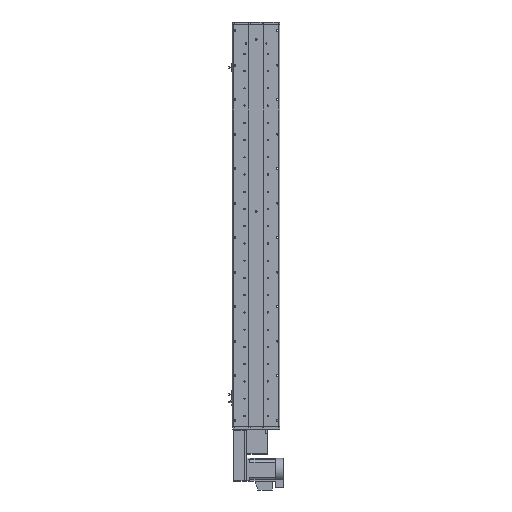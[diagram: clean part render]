
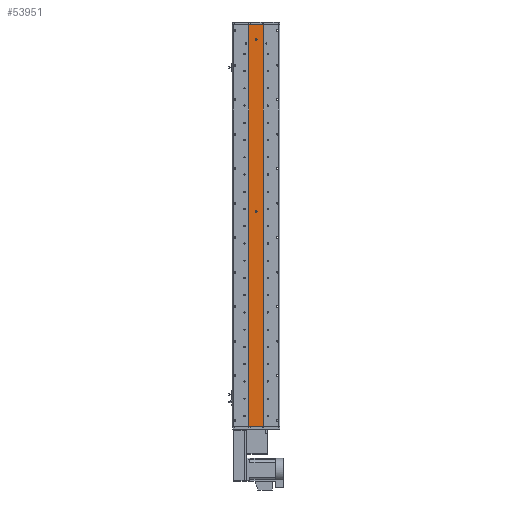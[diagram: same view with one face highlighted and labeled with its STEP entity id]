
A CAD part, front view. The second image highlights one B-rep face of the part: STEP entity #53951.
In plain terms, the highlighted planar face has unit normal (0, -1, 0).
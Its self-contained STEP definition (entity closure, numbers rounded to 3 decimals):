
#347 = CARTESIAN_POINT ( 'NONE',  ( 0., 1., 645.5 ) ) ;
#778 = VECTOR ( 'NONE', #14247, 1000. ) ;
#876 = ORIENTED_EDGE ( 'NONE', *, *, #41213, .F. ) ;
#2293 = VERTEX_POINT ( 'NONE', #34261 ) ;
#3010 = AXIS2_PLACEMENT_3D ( 'NONE', #7449, #43229, #12640 ) ;
#3015 = LINE ( 'NONE', #27597, #28650 ) ;
#3655 = CARTESIAN_POINT ( 'NONE',  ( 25., 1., 698.5 ) ) ;
#4131 = DIRECTION ( 'NONE',  ( 0., -1., 0. ) ) ;
#4256 = EDGE_CURVE ( 'NONE', #7127, #2293, #41646, .T. ) ;
#7127 = VERTEX_POINT ( 'NONE', #55273 ) ;
#7449 = CARTESIAN_POINT ( 'NONE',  ( 25., 1., 698.5 ) ) ;
#7613 = ORIENTED_EDGE ( 'NONE', *, *, #14953, .F. ) ;
#9339 = FACE_BOUND ( 'NONE', #21645, .T. ) ;
#9421 = DIRECTION ( 'NONE',  ( 0., -1., 0. ) ) ;
#11175 = CARTESIAN_POINT ( 'NONE',  ( -25., 1., 698.5 ) ) ;
#12514 = CARTESIAN_POINT ( 'NONE',  ( 0., 1., 51.5 ) ) ;
#12640 = DIRECTION ( 'NONE',  ( 0., 0., 1. ) ) ;
#12666 = EDGE_CURVE ( 'NONE', #66048, #7127, #63514, .T. ) ;
#13514 = CARTESIAN_POINT ( 'NONE',  ( 0., 1., 48.5 ) ) ;
#13815 = ORIENTED_EDGE ( 'NONE', *, *, #65683, .F. ) ;
#14247 = DIRECTION ( 'NONE',  ( 1., 0., 0. ) ) ;
#14953 = EDGE_CURVE ( 'NONE', #33263, #38892, #19153, .T. ) ;
#15795 = CARTESIAN_POINT ( 'NONE',  ( 0., 1., 45.5 ) ) ;
#18549 = ORIENTED_EDGE ( 'NONE', *, *, #54211, .F. ) ;
#18627 = DIRECTION ( 'NONE',  ( 0., 0., -1. ) ) ;
#18993 = AXIS2_PLACEMENT_3D ( 'NONE', #13514, #49254, #18627 ) ;
#19025 = CARTESIAN_POINT ( 'NONE',  ( 0., 1., 651.5 ) ) ;
#19153 = CIRCLE ( 'NONE', #66115, 3. ) ;
#21645 = EDGE_LOOP ( 'NONE', ( #18549, #22177 ) ) ;
#22177 = ORIENTED_EDGE ( 'NONE', *, *, #49870, .F. ) ;
#23000 = FACE_BOUND ( 'NONE', #42843, .T. ) ;
#25424 = DIRECTION ( 'NONE',  ( 0., -1., 0. ) ) ;
#25518 = CARTESIAN_POINT ( 'NONE',  ( -25., 1., 698.5 ) ) ;
#26141 = ORIENTED_EDGE ( 'NONE', *, *, #4256, .T. ) ;
#27597 = CARTESIAN_POINT ( 'NONE',  ( 25., 1., 698.5 ) ) ;
#27607 = VERTEX_POINT ( 'NONE', #3655 ) ;
#28650 = VECTOR ( 'NONE', #63400, 1000. ) ;
#31213 = CIRCLE ( 'NONE', #18993, 3. ) ;
#32580 = LINE ( 'NONE', #64447, #46153 ) ;
#32852 = ORIENTED_EDGE ( 'NONE', *, *, #12666, .T. ) ;
#33263 = VERTEX_POINT ( 'NONE', #12514 ) ;
#34261 = CARTESIAN_POINT ( 'NONE',  ( 25., 1., -698.5 ) ) ;
#34797 = CARTESIAN_POINT ( 'NONE',  ( 0., 1., 48.5 ) ) ;
#36502 = CIRCLE ( 'NONE', #47626, 3. ) ;
#38892 = VERTEX_POINT ( 'NONE', #15795 ) ;
#39705 = VERTEX_POINT ( 'NONE', #19025 ) ;
#39931 = DIRECTION ( 'NONE',  ( 0., 0., -1. ) ) ;
#40025 = CARTESIAN_POINT ( 'NONE',  ( 0., 1., 648.5 ) ) ;
#40967 = DIRECTION ( 'NONE',  ( 0., 0., -1. ) ) ;
#41213 = EDGE_CURVE ( 'NONE', #38892, #33263, #31213, .T. ) ;
#41646 = LINE ( 'NONE', #44851, #778 ) ;
#42843 = EDGE_LOOP ( 'NONE', ( #876, #7613 ) ) ;
#43011 = PLANE ( 'NONE',  #3010 ) ;
#43229 = DIRECTION ( 'NONE',  ( 0., 1., 0. ) ) ;
#44851 = CARTESIAN_POINT ( 'NONE',  ( 25., 1., -698.5 ) ) ;
#45176 = DIRECTION ( 'NONE',  ( 0., 0., -1. ) ) ;
#46153 = VECTOR ( 'NONE', #48782, 1000. ) ;
#47626 = AXIS2_PLACEMENT_3D ( 'NONE', #40025, #9421, #45176 ) ;
#48211 = AXIS2_PLACEMENT_3D ( 'NONE', #56025, #25424, #61223 ) ;
#48782 = DIRECTION ( 'NONE',  ( 1., 0., 0. ) ) ;
#49254 = DIRECTION ( 'NONE',  ( 0., -1., 0. ) ) ;
#49870 = EDGE_CURVE ( 'NONE', #39705, #56486, #54735, .T. ) ;
#50564 = EDGE_LOOP ( 'NONE', ( #26141, #64142, #13815, #32852 ) ) ;
#53951 = ADVANCED_FACE ( 'NONE', ( #23000, #9339, #62168 ), #43011, .F. ) ;
#54211 = EDGE_CURVE ( 'NONE', #56486, #39705, #36502, .T. ) ;
#54735 = CIRCLE ( 'NONE', #48211, 3. ) ;
#55273 = CARTESIAN_POINT ( 'NONE',  ( -25., 1., -698.5 ) ) ;
#56025 = CARTESIAN_POINT ( 'NONE',  ( 0., 1., 648.5 ) ) ;
#56486 = VERTEX_POINT ( 'NONE', #347 ) ;
#61223 = DIRECTION ( 'NONE',  ( 0., 0., -1. ) ) ;
#61874 = VECTOR ( 'NONE', #40967, 1000. ) ;
#62168 = FACE_OUTER_BOUND ( 'NONE', #50564, .T. ) ;
#63400 = DIRECTION ( 'NONE',  ( 0., 0., -1. ) ) ;
#63514 = LINE ( 'NONE', #25518, #61874 ) ;
#64142 = ORIENTED_EDGE ( 'NONE', *, *, #65111, .F. ) ;
#64447 = CARTESIAN_POINT ( 'NONE',  ( 25., 1., 698.5 ) ) ;
#65111 = EDGE_CURVE ( 'NONE', #27607, #2293, #3015, .T. ) ;
#65683 = EDGE_CURVE ( 'NONE', #66048, #27607, #32580, .T. ) ;
#66048 = VERTEX_POINT ( 'NONE', #11175 ) ;
#66115 = AXIS2_PLACEMENT_3D ( 'NONE', #34797, #4131, #39931 ) ;
